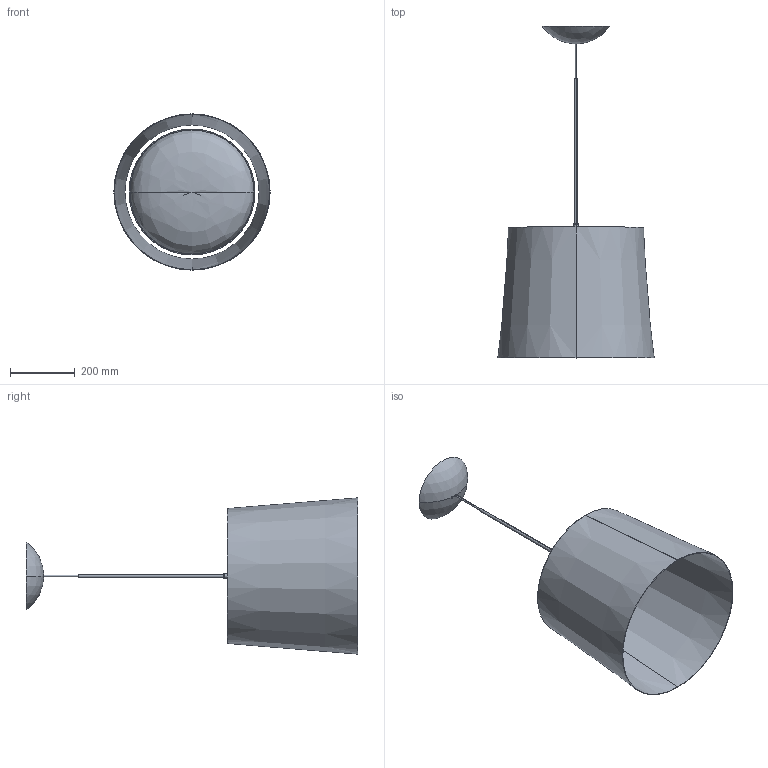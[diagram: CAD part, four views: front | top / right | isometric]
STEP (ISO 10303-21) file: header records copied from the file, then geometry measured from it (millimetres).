
FILE_DESCRIPTION (( 'STEP AP203' ), '1' );
FILE_NAME ('182_GRANDE_S_LD_3D_R02.STEP', '2022-06-22T14:24:34', ( '' ), ( '' ), 'SwSTEP 2.0', 'SolidWorks 2022', '' );
FILE_SCHEMA (( 'CONFIG_CONTROL_DESIGN' ));
Length unit declared in the file: millimetre
Products named in the file (1): 182_GRANDE_S_LD_3D_R02
Bounding box: 483.84 x 1027.5 x 483.84 mm (x, y, z)
Volume: 2450668.3 mm3; surface area: 1812001.9 mm2
Topology: 6 solids, 6 shells, 689 faces, 1817 edges, 1183 vertices
Faces by surface type: bspline 256, plane 250, torus 81, cylinder 67, cone 21, sphere 14
Entity records: 34989 total; most frequent: CARTESIAN_POINT 20283, ORIENTED_EDGE 3610, DIRECTION 2009, EDGE_CURVE 1805, VERTEX_POINT 1183, B_SPLINE_CURVE_WITH_KNOTS 947, EDGE_LOOP 778, AXIS2_PLACEMENT_3D 717
